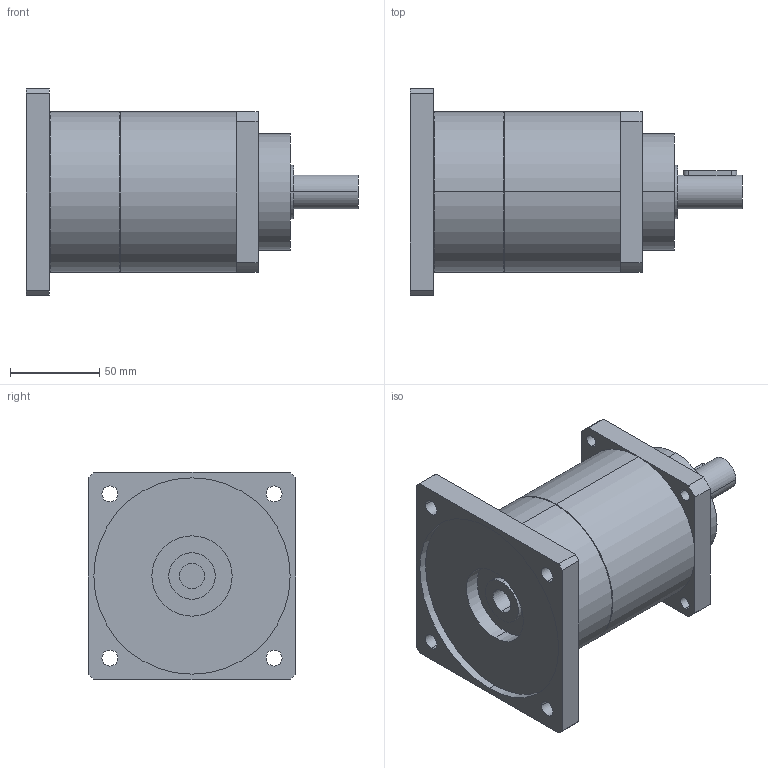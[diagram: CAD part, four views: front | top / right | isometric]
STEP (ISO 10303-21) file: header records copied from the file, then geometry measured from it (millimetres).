
FILE_DESCRIPTION(('CoCreate Modeling STEP Export'),'2;1');
FILE_NAME('GPT90_ig-9-12-16-20-25-28-35-40-50-70-100_19_B5T_14_P08.stp','2015-02-04T11:29:12',(''),(''),'CoCreate Modeling STEP processor for AP214 (Solid Model)','CoCreate Modeling 16.00C 25-Feb-2009 (C) Parametric Technology GmbH','');
FILE_SCHEMA(('AUTOMOTIVE_DESIGN { 1 0 10303 214 1 1 1 1 }'));
Length unit declared in the file: millimetre
Products named in the file (2): GPT90_ig-9-12-16-20-25-28-35-40-50-70-100_19_B5T_14_P08
Assembly tree (1 placements, depth 2):
  GPT90_ig-9-12-16-20-25-28-35-40-50-70-100_19_B5T_14_P08
    GPT90_ig-9-12-16-20-25-28-35-40-50-70-100_19_B5T_14_P08
Bounding box: 186 x 116 x 116 mm (x, y, z)
Volume: 945295.5 mm3; surface area: 83202.8 mm2
Topology: 1 solids, 1 shells, 77 faces, 206 edges, 141 vertices
Faces by surface type: cylinder 46, plane 27, cone 4
Entity records: 2596 total; most frequent: CARTESIAN_POINT 742, ORIENTED_EDGE 412, DIRECTION 324, EDGE_CURVE 206, VERTEX_POINT 141, AXIS2_PLACEMENT_3D 120, EDGE_LOOP 103, VECTOR 84
